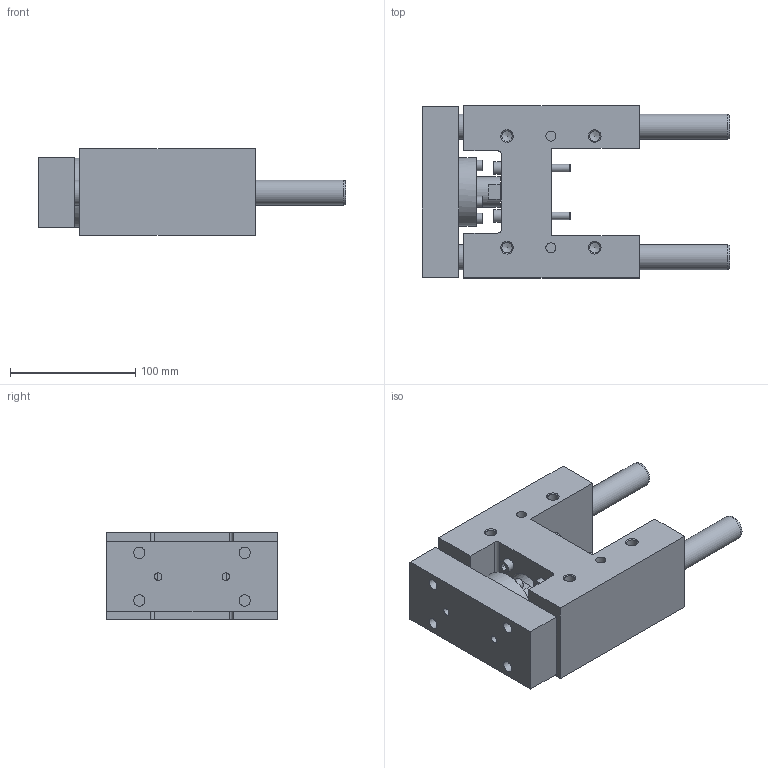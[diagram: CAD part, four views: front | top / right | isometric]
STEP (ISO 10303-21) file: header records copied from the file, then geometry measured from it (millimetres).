
FILE_DESCRIPTION( ( 'STEP AP214' ), '1' );
FILE_NAME( 'U:/Etudes/Top Solid/BIBLIO 3D AVM/TOP/PNEUMATIQUE/GUIDAGES/Type 32 (en H)/R_Renforcée/325R1_30.step', '2005-05-27T08:55:10', ( ' ' ), ( ' ' ), 'XStep 1.0', ' ', ' ' );
FILE_SCHEMA( ( 'automotive_design' ) );
Length unit declared in the file: metre
Products named in the file (2): 1; 2
Bounding box: 245 x 137 x 69 mm (x, y, z)
Volume: 1100144.4 mm3; surface area: 174600.8 mm2
Topology: 2 solids, 7 shells, 223 faces, 504 edges, 337 vertices
Faces by surface type: plane 128, cylinder 74, cone 21
Full cylindrical faces by diameter (mm): 5 x8, 6 x10, 6.5 x8, 6.647 x4, 8 x2, 8.376 x8, 8.5 x4, 9 x4, 10 x4, 10.2 x4, 10.647 x2, 15 x4, 20 x4, 24 x1, 26 x1, 34 x1, 35 x1, 37 x1, 55 x1
Entity records: 7481 total; most frequent: CARTESIAN_POINT 1145, DIRECTION 956, ORIENTED_EDGE 724, EDGE_LOOP 386, AXIS2_PLACEMENT_3D 377, EDGE_CURVE 362, FACE_OUTER_BOUND 295, VERTEX_POINT 294
